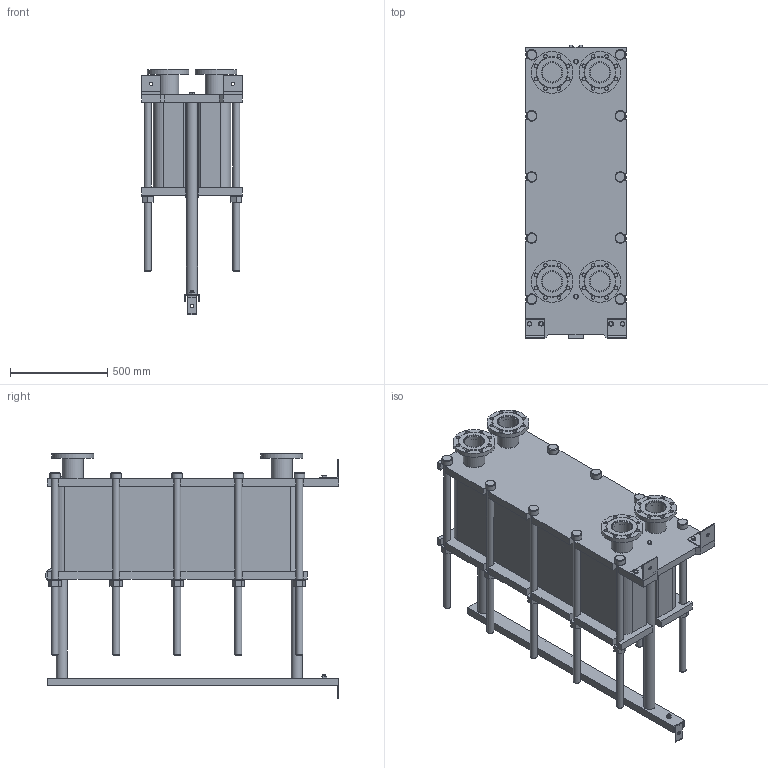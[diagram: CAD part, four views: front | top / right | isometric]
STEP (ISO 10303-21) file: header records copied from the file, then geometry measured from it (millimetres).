
FILE_DESCRIPTION(/* description */ (''),/* implementation_level */ '2;1');
FILE_NAME(/* name */ 'C:\Users\zhuro\Desktop\ENCO\TO\ЭН-04\ЭН-0,5-04-127-1.stp',/* time_stamp */ '2022-06-06T10:56:47+03:00',/* author */ ('zhuro'),/* organization */ (''),/* preprocessor_version */ 'ST-DEVELOPER v18.1',/* originating_system */ 'Autodesk Inventor 2022',/* authorisation */ '');
FILE_SCHEMA (('AUTOMOTIVE_DESIGN { 1 0 10303 214 3 1 1 }'));
Length unit declared in the file: millimetre
Products named in the file (1): ЭН-0,5-04-127-1
Bounding box: 520 x 1510 x 1263.5 mm (x, y, z)
Volume: 291627423.1 mm3; surface area: 8948994.5 mm2
Topology: 45 solids, 45 shells, 668 faces, 1611 edges, 1048 vertices
Faces by surface type: plane 457, cylinder 166, cone 39, torus 6
Full cylindrical faces by diameter (mm): 8 x4, 10 x2, 16 x8, 18 x35, 36 x25, 40 x2, 42 x1, 45 x4, 54 x10, 57 x2, 60 x10, 68 x2, 100 x4, 110 x8, 215 x4
Entity records: 23607 total; most frequent: CARTESIAN_POINT 7348, DIRECTION 3371, ORIENTED_EDGE 3142, EDGE_CURVE 1571, AXIS2_PLACEMENT_3D 1199, VERTEX_POINT 1044, LINE 973, VECTOR 973
